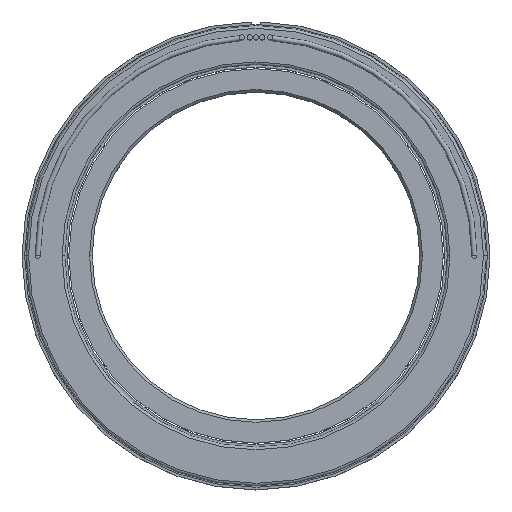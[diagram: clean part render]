
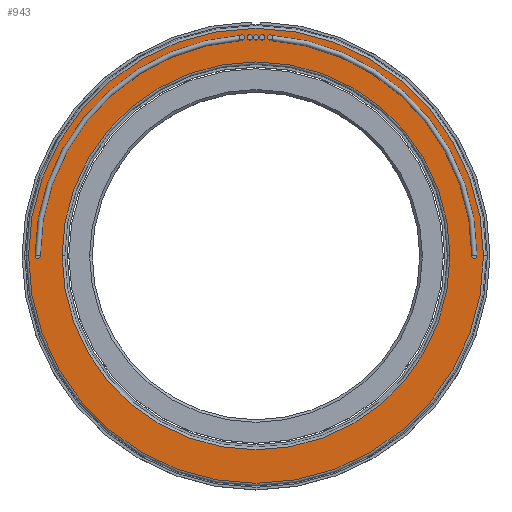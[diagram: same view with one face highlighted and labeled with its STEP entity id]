
A CAD part, top view. The second image highlights one B-rep face of the part: STEP entity #943.
In plain terms, the highlighted planar face has unit normal (0, 0, 1).
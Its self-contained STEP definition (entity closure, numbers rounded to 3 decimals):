
#13 = ORIENTED_EDGE ( 'NONE', *, *, #1220, .F. ) ;
#44 = VERTEX_POINT ( 'NONE', #264 ) ;
#144 = CARTESIAN_POINT ( 'NONE',  ( 0., 0., 32.512 ) ) ;
#228 = EDGE_CURVE ( 'NONE', #2209, #2295, #1259, .T. ) ;
#243 = DIRECTION ( 'NONE',  ( 0., 0., 1. ) ) ;
#250 = DIRECTION ( 'NONE',  ( 0., 0., 1. ) ) ;
#264 = CARTESIAN_POINT ( 'NONE',  ( -94.742, 0., 32.512 ) ) ;
#314 = CIRCLE ( 'NONE', #1016, 1.27 ) ;
#316 = CARTESIAN_POINT ( 'NONE',  ( -106.68, 0., 32.512 ) ) ;
#324 = ORIENTED_EDGE ( 'NONE', *, *, #1416, .F. ) ;
#389 = DIRECTION ( 'NONE',  ( 1., 0., 0. ) ) ;
#407 = AXIS2_PLACEMENT_3D ( 'NONE', #144, #1053, #389 ) ;
#450 = EDGE_CURVE ( 'NONE', #672, #44, #2561, .T. ) ;
#494 = FACE_BOUND ( 'NONE', #1260, .T. ) ;
#542 = AXIS2_PLACEMENT_3D ( 'NONE', #2426, #576, #995 ) ;
#555 = CIRCLE ( 'NONE', #407, 111.125 ) ;
#576 = DIRECTION ( 'NONE',  ( 0., 0., -1. ) ) ;
#672 = VERTEX_POINT ( 'NONE', #1272 ) ;
#747 = CIRCLE ( 'NONE', #2223, 1.27 ) ;
#758 = AXIS2_PLACEMENT_3D ( 'NONE', #1839, #1349, #1118 ) ;
#855 = DIRECTION ( 'NONE',  ( 1., 0., 0. ) ) ;
#870 = DIRECTION ( 'NONE',  ( 0., 0., 1. ) ) ;
#872 = EDGE_LOOP ( 'NONE', ( #2655, #1708 ) ) ;
#912 = VERTEX_POINT ( 'NONE', #2328 ) ;
#943 = ADVANCED_FACE ( 'NONE', ( #2911, #2868, #1212, #494 ), #2834, .T. ) ;
#981 = AXIS2_PLACEMENT_3D ( 'NONE', #2609, #2621, #1234 ) ;
#995 = DIRECTION ( 'NONE',  ( 1., 0., 0. ) ) ;
#1016 = AXIS2_PLACEMENT_3D ( 'NONE', #1423, #250, #2562 ) ;
#1053 = DIRECTION ( 'NONE',  ( 0., 0., 1. ) ) ;
#1118 = DIRECTION ( 'NONE',  ( 1., 0., 0. ) ) ;
#1174 = ORIENTED_EDGE ( 'NONE', *, *, #2062, .F. ) ;
#1198 = DIRECTION ( 'NONE',  ( 1., 0., 0. ) ) ;
#1212 = FACE_OUTER_BOUND ( 'NONE', #872, .T. ) ;
#1220 = EDGE_CURVE ( 'NONE', #2295, #2209, #747, .T. ) ;
#1234 = DIRECTION ( 'NONE',  ( 1., 0., 0. ) ) ;
#1259 = CIRCLE ( 'NONE', #1390, 1.27 ) ;
#1260 = EDGE_LOOP ( 'NONE', ( #2863, #1480 ) ) ;
#1272 = CARTESIAN_POINT ( 'NONE',  ( 94.742, 0., 32.512 ) ) ;
#1317 = VERTEX_POINT ( 'NONE', #1849 ) ;
#1349 = DIRECTION ( 'NONE',  ( 0., 0., 1. ) ) ;
#1390 = AXIS2_PLACEMENT_3D ( 'NONE', #1820, #870, #855 ) ;
#1394 = CARTESIAN_POINT ( 'NONE',  ( -107.95, 0., 32.512 ) ) ;
#1416 = EDGE_CURVE ( 'NONE', #1512, #912, #314, .T. ) ;
#1423 = CARTESIAN_POINT ( 'NONE',  ( 106.68, 0., 32.512 ) ) ;
#1425 = CARTESIAN_POINT ( 'NONE',  ( 0., 0., 32.512 ) ) ;
#1432 = CARTESIAN_POINT ( 'NONE',  ( 0., 0., 32.512 ) ) ;
#1472 = EDGE_LOOP ( 'NONE', ( #324, #1174 ) ) ;
#1480 = ORIENTED_EDGE ( 'NONE', *, *, #1700, .T. ) ;
#1512 = VERTEX_POINT ( 'NONE', #2570 ) ;
#1575 = VERTEX_POINT ( 'NONE', #1786 ) ;
#1600 = ORIENTED_EDGE ( 'NONE', *, *, #228, .F. ) ;
#1700 = EDGE_CURVE ( 'NONE', #44, #672, #2163, .T. ) ;
#1708 = ORIENTED_EDGE ( 'NONE', *, *, #2958, .T. ) ;
#1757 = CIRCLE ( 'NONE', #758, 1.27 ) ;
#1786 = CARTESIAN_POINT ( 'NONE',  ( 111.125, 0., 32.512 ) ) ;
#1820 = CARTESIAN_POINT ( 'NONE',  ( -106.68, 0., 32.512 ) ) ;
#1839 = CARTESIAN_POINT ( 'NONE',  ( 106.68, 0., 32.512 ) ) ;
#1849 = CARTESIAN_POINT ( 'NONE',  ( -111.125, 0., 32.512 ) ) ;
#1889 = DIRECTION ( 'NONE',  ( 0., 0., -1. ) ) ;
#1902 = CIRCLE ( 'NONE', #2789, 111.125 ) ;
#1947 = EDGE_CURVE ( 'NONE', #1575, #1317, #555, .T. ) ;
#2062 = EDGE_CURVE ( 'NONE', #912, #1512, #1757, .T. ) ;
#2070 = DIRECTION ( 'NONE',  ( 1., 0., 0. ) ) ;
#2162 = DIRECTION ( 'NONE',  ( 0., 0., 1. ) ) ;
#2163 = CIRCLE ( 'NONE', #542, 94.742 ) ;
#2209 = VERTEX_POINT ( 'NONE', #1394 ) ;
#2223 = AXIS2_PLACEMENT_3D ( 'NONE', #316, #2162, #2678 ) ;
#2295 = VERTEX_POINT ( 'NONE', #2552 ) ;
#2328 = CARTESIAN_POINT ( 'NONE',  ( 105.41, 0., 32.512 ) ) ;
#2426 = CARTESIAN_POINT ( 'NONE',  ( 0., 0., 32.512 ) ) ;
#2552 = CARTESIAN_POINT ( 'NONE',  ( -105.41, 0., 32.512 ) ) ;
#2561 = CIRCLE ( 'NONE', #2741, 94.742 ) ;
#2562 = DIRECTION ( 'NONE',  ( 1., 0., 0. ) ) ;
#2570 = CARTESIAN_POINT ( 'NONE',  ( 107.95, 0., 32.512 ) ) ;
#2609 = CARTESIAN_POINT ( 'NONE',  ( 0., 0., 32.512 ) ) ;
#2621 = DIRECTION ( 'NONE',  ( 0., 0., 1. ) ) ;
#2655 = ORIENTED_EDGE ( 'NONE', *, *, #1947, .T. ) ;
#2678 = DIRECTION ( 'NONE',  ( 1., 0., 0. ) ) ;
#2741 = AXIS2_PLACEMENT_3D ( 'NONE', #1432, #1889, #1198 ) ;
#2777 = EDGE_LOOP ( 'NONE', ( #13, #1600 ) ) ;
#2789 = AXIS2_PLACEMENT_3D ( 'NONE', #1425, #243, #2070 ) ;
#2834 = PLANE ( 'NONE',  #981 ) ;
#2863 = ORIENTED_EDGE ( 'NONE', *, *, #450, .T. ) ;
#2868 = FACE_BOUND ( 'NONE', #2777, .T. ) ;
#2911 = FACE_BOUND ( 'NONE', #1472, .T. ) ;
#2958 = EDGE_CURVE ( 'NONE', #1317, #1575, #1902, .T. ) ;
